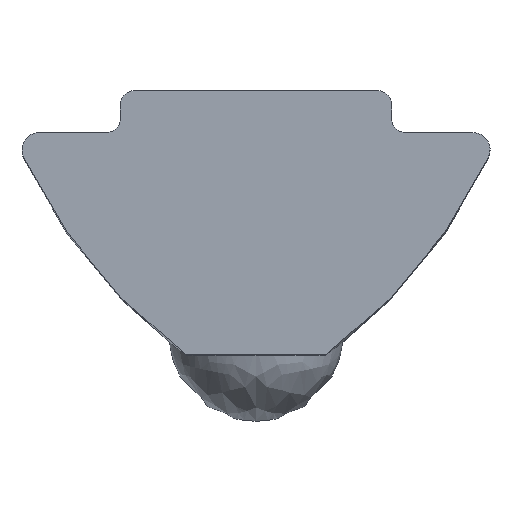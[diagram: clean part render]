
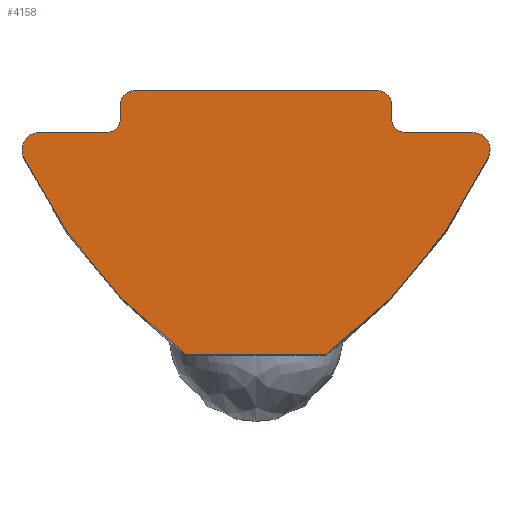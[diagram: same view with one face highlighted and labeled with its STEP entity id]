
A CAD part, top view. The second image highlights one B-rep face of the part: STEP entity #4158.
In plain terms, the highlighted planar face has unit normal (0, 0, 1).
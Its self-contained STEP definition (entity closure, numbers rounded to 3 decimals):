
#12 = DIRECTION ( 'NONE',  ( -1., 0., 0. ) ) ;
#14 = CARTESIAN_POINT ( 'NONE',  ( -6.233, -1.3, 22. ) ) ;
#21 = EDGE_CURVE ( 'NONE', #289, #731, #3130, .T. ) ;
#110 = CARTESIAN_POINT ( 'NONE',  ( 0., -0.8, 22. ) ) ;
#246 = ORIENTED_EDGE ( 'NONE', *, *, #547, .T. ) ;
#273 = CARTESIAN_POINT ( 'NONE',  ( 6.879, 4.89, 22. ) ) ;
#289 = VERTEX_POINT ( 'NONE', #1878 ) ;
#311 = DIRECTION ( 'NONE',  ( -1., 0., 0. ) ) ;
#312 = ORIENTED_EDGE ( 'NONE', *, *, #3996, .T. ) ;
#331 = DIRECTION ( 'NONE',  ( 0., 0., -1. ) ) ;
#412 = EDGE_CURVE ( 'NONE', #3098, #574, #2192, .T. ) ;
#413 = VERTEX_POINT ( 'NONE', #2493 ) ;
#425 = VERTEX_POINT ( 'NONE', #3819 ) ;
#447 = CIRCLE ( 'NONE', #1441, 0.5 ) ;
#547 = EDGE_CURVE ( 'NONE', #2101, #425, #1641, .T. ) ;
#574 = VERTEX_POINT ( 'NONE', #2343 ) ;
#598 = CARTESIAN_POINT ( 'NONE',  ( 6.233, -1.3, 22. ) ) ;
#637 = AXIS2_PLACEMENT_3D ( 'NONE', #668, #3994, #2013 ) ;
#644 = ORIENTED_EDGE ( 'NONE', *, *, #412, .T. ) ;
#668 = CARTESIAN_POINT ( 'NONE',  ( 0., 0., 22. ) ) ;
#690 = EDGE_CURVE ( 'NONE', #4038, #731, #447, .T. ) ;
#731 = VERTEX_POINT ( 'NONE', #3269 ) ;
#787 = LINE ( 'NONE', #2134, #1372 ) ;
#827 = DIRECTION ( 'NONE',  ( 1., 0., 0. ) ) ;
#842 = CIRCLE ( 'NONE', #3496, 0.4 ) ;
#915 = DIRECTION ( 'NONE',  ( 1., 0., 0. ) ) ;
#976 = ORIENTED_EDGE ( 'NONE', *, *, #2755, .F. ) ;
#998 = DIRECTION ( 'NONE',  ( 0., 0., -1. ) ) ;
#1012 = AXIS2_PLACEMENT_3D ( 'NONE', #1945, #1633, #3334 ) ;
#1063 = VERTEX_POINT ( 'NONE', #3587 ) ;
#1079 = ORIENTED_EDGE ( 'NONE', *, *, #2135, .T. ) ;
#1118 = DIRECTION ( 'NONE',  ( -1., 0., 0. ) ) ;
#1139 = LINE ( 'NONE', #1467, #2355 ) ;
#1170 = CARTESIAN_POINT ( 'NONE',  ( 3.9, -0.4, 22. ) ) ;
#1189 = CARTESIAN_POINT ( 'NONE',  ( -4.3, -0.4, 22. ) ) ;
#1193 = CIRCLE ( 'NONE', #3719, 0.5 ) ;
#1256 = DIRECTION ( 'NONE',  ( 0., 0., -1. ) ) ;
#1372 = VECTOR ( 'NONE', #827, 1000. ) ;
#1390 = EDGE_CURVE ( 'NONE', #3458, #2101, #787, .T. ) ;
#1417 = VERTEX_POINT ( 'NONE', #2197 ) ;
#1441 = AXIS2_PLACEMENT_3D ( 'NONE', #14, #998, #311 ) ;
#1464 = CARTESIAN_POINT ( 'NONE',  ( -6.233, -1.3, 22. ) ) ;
#1465 = EDGE_CURVE ( 'NONE', #1417, #2423, #1139, .T. ) ;
#1467 = CARTESIAN_POINT ( 'NONE',  ( -3.9, 0.4, 22. ) ) ;
#1598 = CARTESIAN_POINT ( 'NONE',  ( -6.686, -1.513, 22. ) ) ;
#1620 = CARTESIAN_POINT ( 'NONE',  ( -3.5, 0., 22. ) ) ;
#1633 = DIRECTION ( 'NONE',  ( 0., 0., 1. ) ) ;
#1641 = CIRCLE ( 'NONE', #1012, 15. ) ;
#1681 = ORIENTED_EDGE ( 'NONE', *, *, #3515, .F. ) ;
#1684 = CARTESIAN_POINT ( 'NONE',  ( 3.5, 0., 22. ) ) ;
#1766 = DIRECTION ( 'NONE',  ( -1., 0., 0. ) ) ;
#1774 = CARTESIAN_POINT ( 'NONE',  ( 3.9, -0.4, 22. ) ) ;
#1789 = EDGE_CURVE ( 'NONE', #574, #2423, #1858, .T. ) ;
#1828 = VECTOR ( 'NONE', #1947, 1000. ) ;
#1854 = DIRECTION ( 'NONE',  ( 0., 0., -1. ) ) ;
#1858 = CIRCLE ( 'NONE', #4295, 0.4 ) ;
#1878 = CARTESIAN_POINT ( 'NONE',  ( -4.3, -0.8, 22. ) ) ;
#1901 = ORIENTED_EDGE ( 'NONE', *, *, #21, .T. ) ;
#1945 = CARTESIAN_POINT ( 'NONE',  ( -6.879, 4.89, 22. ) ) ;
#1947 = DIRECTION ( 'NONE',  ( 0., 1., 0. ) ) ;
#2001 = VECTOR ( 'NONE', #4113, 1000. ) ;
#2013 = DIRECTION ( 'NONE',  ( 1., 0., 0. ) ) ;
#2017 = CARTESIAN_POINT ( 'NONE',  ( -3.9, -0.4, 22. ) ) ;
#2020 = VECTOR ( 'NONE', #1766, 1000. ) ;
#2095 = LINE ( 'NONE', #110, #2001 ) ;
#2101 = VERTEX_POINT ( 'NONE', #3414 ) ;
#2106 = ORIENTED_EDGE ( 'NONE', *, *, #2301, .T. ) ;
#2122 = ORIENTED_EDGE ( 'NONE', *, *, #3069, .F. ) ;
#2131 = DIRECTION ( 'NONE',  ( 0., 0., -1. ) ) ;
#2134 = CARTESIAN_POINT ( 'NONE',  ( 0., -7.2, 22. ) ) ;
#2135 = EDGE_CURVE ( 'NONE', #2829, #1063, #2095, .T. ) ;
#2192 = LINE ( 'NONE', #1170, #2832 ) ;
#2197 = CARTESIAN_POINT ( 'NONE',  ( -3.5, 0.4, 22. ) ) ;
#2205 = AXIS2_PLACEMENT_3D ( 'NONE', #1620, #4279, #915 ) ;
#2262 = DIRECTION ( 'NONE',  ( -1., 0., 0. ) ) ;
#2293 = VERTEX_POINT ( 'NONE', #3264 ) ;
#2300 = CARTESIAN_POINT ( 'NONE',  ( -2., -7.2, 22. ) ) ;
#2301 = EDGE_CURVE ( 'NONE', #1063, #3098, #3318, .T. ) ;
#2315 = DIRECTION ( 'NONE',  ( -1., 0., 0. ) ) ;
#2339 = ORIENTED_EDGE ( 'NONE', *, *, #2761, .T. ) ;
#2343 = CARTESIAN_POINT ( 'NONE',  ( 3.9, 0., 22. ) ) ;
#2355 = VECTOR ( 'NONE', #4093, 1000. ) ;
#2396 = CARTESIAN_POINT ( 'NONE',  ( 6.233, -0.8, 22. ) ) ;
#2416 = AXIS2_PLACEMENT_3D ( 'NONE', #1464, #2131, #1118 ) ;
#2423 = VERTEX_POINT ( 'NONE', #3468 ) ;
#2493 = CARTESIAN_POINT ( 'NONE',  ( -3.9, -0.4, 22. ) ) ;
#2555 = DIRECTION ( 'NONE',  ( 0., 1., 0. ) ) ;
#2691 = DIRECTION ( 'NONE',  ( 1., 0., 0. ) ) ;
#2755 = EDGE_CURVE ( 'NONE', #3458, #2799, #3447, .T. ) ;
#2761 = EDGE_CURVE ( 'NONE', #1417, #2293, #3514, .T. ) ;
#2777 = AXIS2_PLACEMENT_3D ( 'NONE', #3572, #1256, #2315 ) ;
#2799 = VERTEX_POINT ( 'NONE', #1598 ) ;
#2826 = AXIS2_PLACEMENT_3D ( 'NONE', #273, #3960, #2262 ) ;
#2829 = VERTEX_POINT ( 'NONE', #2396 ) ;
#2832 = VECTOR ( 'NONE', #2555, 1000. ) ;
#2946 = PLANE ( 'NONE',  #637 ) ;
#3016 = DIRECTION ( 'NONE',  ( 0., 0., 1. ) ) ;
#3069 = EDGE_CURVE ( 'NONE', #2799, #4038, #3381, .T. ) ;
#3075 = ORIENTED_EDGE ( 'NONE', *, *, #1789, .T. ) ;
#3098 = VERTEX_POINT ( 'NONE', #1774 ) ;
#3130 = LINE ( 'NONE', #3420, #2020 ) ;
#3176 = DIRECTION ( 'NONE',  ( -1., 0., 0. ) ) ;
#3247 = EDGE_LOOP ( 'NONE', ( #4269, #2339, #1681, #312, #1901, #4248, #2122, #976, #3691, #246, #4226, #1079, #2106, #644, #3075 ) ) ;
#3264 = CARTESIAN_POINT ( 'NONE',  ( -3.9, 0., 22. ) ) ;
#3269 = CARTESIAN_POINT ( 'NONE',  ( -6.233, -0.8, 22. ) ) ;
#3318 = CIRCLE ( 'NONE', #2777, 0.4 ) ;
#3334 = DIRECTION ( 'NONE',  ( -1., 0., 0. ) ) ;
#3381 = CIRCLE ( 'NONE', #2416, 0.5 ) ;
#3414 = CARTESIAN_POINT ( 'NONE',  ( 2., -7.2, 22. ) ) ;
#3420 = CARTESIAN_POINT ( 'NONE',  ( 0., -0.8, 22. ) ) ;
#3447 = CIRCLE ( 'NONE', #2826, 15. ) ;
#3458 = VERTEX_POINT ( 'NONE', #2300 ) ;
#3468 = CARTESIAN_POINT ( 'NONE',  ( 3.5, 0.4, 22. ) ) ;
#3496 = AXIS2_PLACEMENT_3D ( 'NONE', #1189, #1854, #3176 ) ;
#3514 = CIRCLE ( 'NONE', #2205, 0.4 ) ;
#3515 = EDGE_CURVE ( 'NONE', #413, #2293, #4019, .T. ) ;
#3572 = CARTESIAN_POINT ( 'NONE',  ( 4.3, -0.4, 22. ) ) ;
#3587 = CARTESIAN_POINT ( 'NONE',  ( 4.3, -0.8, 22. ) ) ;
#3665 = CARTESIAN_POINT ( 'NONE',  ( -6.733, -1.3, 22. ) ) ;
#3691 = ORIENTED_EDGE ( 'NONE', *, *, #1390, .T. ) ;
#3719 = AXIS2_PLACEMENT_3D ( 'NONE', #598, #331, #12 ) ;
#3819 = CARTESIAN_POINT ( 'NONE',  ( 6.686, -1.513, 22. ) ) ;
#3960 = DIRECTION ( 'NONE',  ( 0., 0., -1. ) ) ;
#3994 = DIRECTION ( 'NONE',  ( 0., 0., 1. ) ) ;
#3996 = EDGE_CURVE ( 'NONE', #413, #289, #842, .T. ) ;
#4019 = LINE ( 'NONE', #2017, #1828 ) ;
#4038 = VERTEX_POINT ( 'NONE', #3665 ) ;
#4093 = DIRECTION ( 'NONE',  ( 1., 0., 0. ) ) ;
#4113 = DIRECTION ( 'NONE',  ( -1., 0., 0. ) ) ;
#4158 = ADVANCED_FACE ( 'NONE', ( #4317 ), #2946, .T. ) ;
#4175 = EDGE_CURVE ( 'NONE', #2829, #425, #1193, .T. ) ;
#4226 = ORIENTED_EDGE ( 'NONE', *, *, #4175, .F. ) ;
#4248 = ORIENTED_EDGE ( 'NONE', *, *, #690, .F. ) ;
#4269 = ORIENTED_EDGE ( 'NONE', *, *, #1465, .F. ) ;
#4279 = DIRECTION ( 'NONE',  ( 0., 0., 1. ) ) ;
#4295 = AXIS2_PLACEMENT_3D ( 'NONE', #1684, #3016, #2691 ) ;
#4317 = FACE_OUTER_BOUND ( 'NONE', #3247, .T. ) ;
